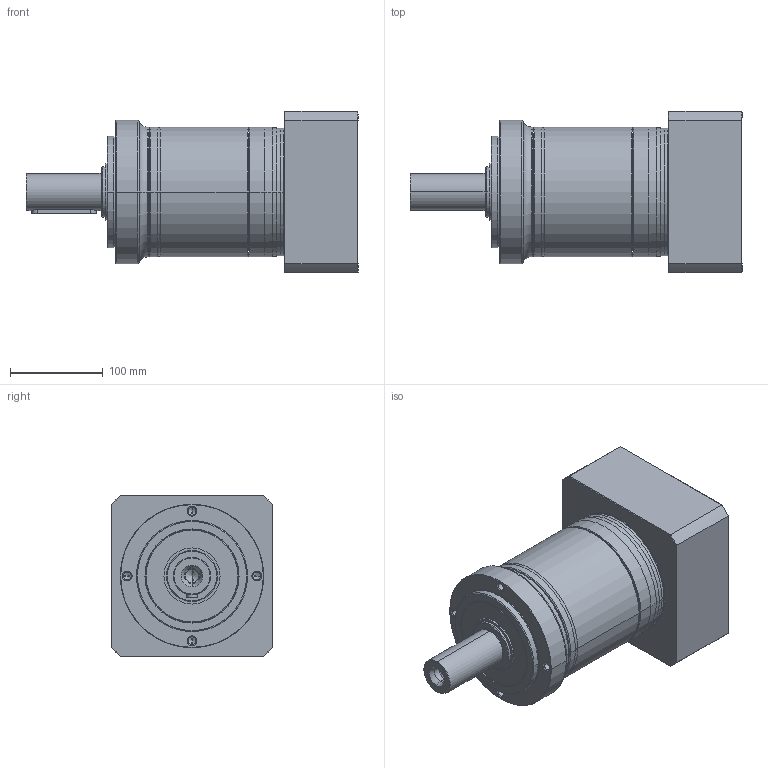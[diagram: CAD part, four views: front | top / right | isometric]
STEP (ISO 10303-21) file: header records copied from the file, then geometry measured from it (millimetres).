
FILE_DESCRIPTION((''),'2;1');
FILE_NAME('PE2-155_2ST_38-P0411900101_ASM','2017-06-05T',('d01943'),(''),'PRO/ENGINEER BY PARAMETRIC TECHNOLOGY CORPORATION, 2008410','PRO/ENGINEER BY PARAMETRIC TECHNOLOGY CORPORATION, 2008410','');
FILE_SCHEMA(('CONFIG_CONTROL_DESIGN'));
Length unit declared in the file: millimetre
Products named in the file (9): P1323510001; P0251500001; P1324500501; P0350501001; P0941505001; P0503900010; P0411900101; P1702600001; PE2-155_2ST_38-P0411900101_ASM
Assembly tree (8 placements, depth 2):
  PE2-155_2ST_38-P0411900101_ASM
    P1323510001
    P0251500001
    P1324500501
    P0350501001
    P0941505001
    P0503900010
    P0411900101
    P1702600001
Bounding box: 358.5 x 174 x 174 mm (x, y, z)
Volume: 3887139.2 mm3; surface area: 451377.9 mm2
Topology: 8 solids, 8 shells, 479 faces, 1047 edges, 598 vertices
Faces by surface type: cone 142, cylinder 142, torus 100, plane 77, bspline 18
Entity records: 17707 total; most frequent: CARTESIAN_POINT 6989, DIRECTION 2447, ORIENTED_EDGE 2030, AXIS2_PLACEMENT_3D 1051, EDGE_CURVE 1015, VERTEX_POINT 598, CIRCLE 573, EDGE_LOOP 541
